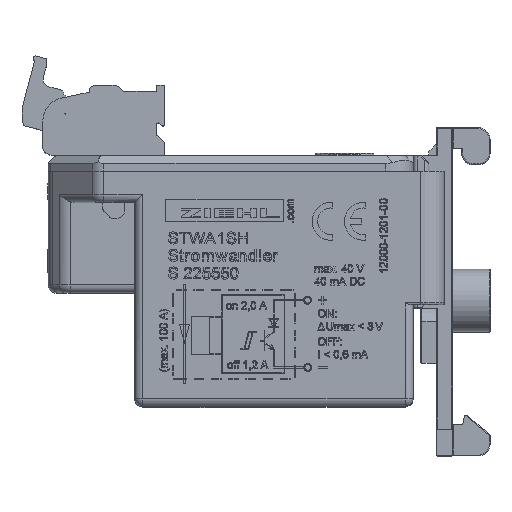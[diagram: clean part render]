
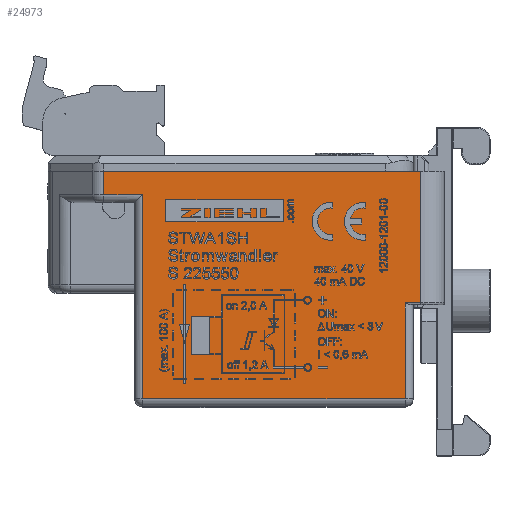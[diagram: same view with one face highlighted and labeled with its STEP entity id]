
A CAD part, top view. The second image highlights one B-rep face of the part: STEP entity #24973.
In plain terms, the highlighted planar face has unit normal (0, 0, 1).
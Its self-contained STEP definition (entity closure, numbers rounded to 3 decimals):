
#1236 = VERTEX_POINT ( 'NONE', #4990 ) ;
#4990 = CARTESIAN_POINT ( 'NONE',  ( 1., 1., 0. ) ) ;
#8789 = VECTOR ( 'NONE', #23902, 1000. ) ;
#9405 = CARTESIAN_POINT ( 'NONE',  ( 36.5, 13.2, 0. ) ) ;
#12184 = CARTESIAN_POINT ( 'NONE',  ( 36.5, 30., 0. ) ) ;
#12595 = EDGE_CURVE ( 'NONE', #51594, #79534, #84590, .T. ) ;
#15627 = LINE ( 'NONE', #74522, #8789 ) ;
#17541 = EDGE_CURVE ( 'NONE', #60311, #66331, #78100, .T. ) ;
#18086 = CARTESIAN_POINT ( 'NONE',  ( 0., 30., 0. ) ) ;
#18163 = ORIENTED_EDGE ( 'NONE', *, *, #20087, .T. ) ;
#19498 = ORIENTED_EDGE ( 'NONE', *, *, #29610, .T. ) ;
#20087 = EDGE_CURVE ( 'NONE', #93702, #46749, #39663, .T. ) ;
#20160 = ORIENTED_EDGE ( 'NONE', *, *, #17541, .F. ) ;
#20361 = VECTOR ( 'NONE', #50798, 1000. ) ;
#20435 = VECTOR ( 'NONE', #69892, 1000. ) ;
#23902 = DIRECTION ( 'NONE',  ( 0., -1., 0. ) ) ;
#24635 = LINE ( 'NONE', #86101, #60832 ) ;
#24973 = ADVANCED_FACE ( 'NONE', ( #47604 ), #75987, .F. ) ;
#26342 = VECTOR ( 'NONE', #64315, 1000. ) ;
#29610 = EDGE_CURVE ( 'NONE', #1236, #34130, #78637, .T. ) ;
#30773 = EDGE_CURVE ( 'NONE', #46749, #66331, #62540, .T. ) ;
#32652 = DIRECTION ( 'NONE',  ( 0., 0., -1. ) ) ;
#34097 = ORIENTED_EDGE ( 'NONE', *, *, #30773, .T. ) ;
#34130 = VERTEX_POINT ( 'NONE', #50688 ) ;
#37010 = AXIS2_PLACEMENT_3D ( 'NONE', #18086, #32652, #83246 ) ;
#38336 = CARTESIAN_POINT ( 'NONE',  ( -3.922, 30., 0. ) ) ;
#39663 = LINE ( 'NONE', #40812, #20435 ) ;
#40812 = CARTESIAN_POINT ( 'NONE',  ( 0., 13.2, 0. ) ) ;
#43839 = VECTOR ( 'NONE', #71496, 1000. ) ;
#43968 = ORIENTED_EDGE ( 'NONE', *, *, #90034, .T. ) ;
#45662 = CARTESIAN_POINT ( 'NONE',  ( -3.922, 27., 0. ) ) ;
#46749 = VERTEX_POINT ( 'NONE', #9405 ) ;
#47471 = LINE ( 'NONE', #48302, #83719 ) ;
#47604 = FACE_OUTER_BOUND ( 'NONE', #51441, .T. ) ;
#48302 = CARTESIAN_POINT ( 'NONE',  ( 34.5, 30., 0. ) ) ;
#50688 = CARTESIAN_POINT ( 'NONE',  ( 34.5, 1., 0. ) ) ;
#50798 = DIRECTION ( 'NONE',  ( 1., 0., 0. ) ) ;
#51441 = EDGE_LOOP ( 'NONE', ( #43968, #18163, #34097, #20160, #58002, #61542, #89813, #19498 ) ) ;
#51594 = VERTEX_POINT ( 'NONE', #45662 ) ;
#55631 = DIRECTION ( 'NONE',  ( 0., 1., 0. ) ) ;
#58002 = ORIENTED_EDGE ( 'NONE', *, *, #67993, .T. ) ;
#60311 = VERTEX_POINT ( 'NONE', #38336 ) ;
#60832 = VECTOR ( 'NONE', #93395, 1000. ) ;
#61127 = DIRECTION ( 'NONE',  ( 1., 0., 0. ) ) ;
#61542 = ORIENTED_EDGE ( 'NONE', *, *, #12595, .T. ) ;
#62540 = LINE ( 'NONE', #63383, #26342 ) ;
#63383 = CARTESIAN_POINT ( 'NONE',  ( 36.5, 30., 0. ) ) ;
#64315 = DIRECTION ( 'NONE',  ( 0., 1., 0. ) ) ;
#66331 = VERTEX_POINT ( 'NONE', #12184 ) ;
#67993 = EDGE_CURVE ( 'NONE', #60311, #51594, #15627, .T. ) ;
#69892 = DIRECTION ( 'NONE',  ( 1., 0., 0. ) ) ;
#71496 = DIRECTION ( 'NONE',  ( 1., 0., 0. ) ) ;
#72122 = CARTESIAN_POINT ( 'NONE',  ( 1., 27., 0. ) ) ;
#74522 = CARTESIAN_POINT ( 'NONE',  ( -3.922, 26., 0. ) ) ;
#75987 = PLANE ( 'NONE',  #37010 ) ;
#76364 = VECTOR ( 'NONE', #61127, 1000. ) ;
#78100 = LINE ( 'NONE', #85281, #20361 ) ;
#78494 = CARTESIAN_POINT ( 'NONE',  ( 0., 27., 0. ) ) ;
#78637 = LINE ( 'NONE', #82648, #76364 ) ;
#79534 = VERTEX_POINT ( 'NONE', #72122 ) ;
#82648 = CARTESIAN_POINT ( 'NONE',  ( 35.5, 1., 0. ) ) ;
#83246 = DIRECTION ( 'NONE',  ( -1., 0., 0. ) ) ;
#83719 = VECTOR ( 'NONE', #55631, 1000. ) ;
#84590 = LINE ( 'NONE', #78494, #43839 ) ;
#85281 = CARTESIAN_POINT ( 'NONE',  ( 0., 30., 0. ) ) ;
#86101 = CARTESIAN_POINT ( 'NONE',  ( 1., 30., 0. ) ) ;
#89660 = CARTESIAN_POINT ( 'NONE',  ( 34.5, 13.2, 0. ) ) ;
#89813 = ORIENTED_EDGE ( 'NONE', *, *, #91149, .T. ) ;
#90034 = EDGE_CURVE ( 'NONE', #34130, #93702, #47471, .T. ) ;
#91149 = EDGE_CURVE ( 'NONE', #79534, #1236, #24635, .T. ) ;
#93395 = DIRECTION ( 'NONE',  ( 0., -1., 0. ) ) ;
#93702 = VERTEX_POINT ( 'NONE', #89660 ) ;
